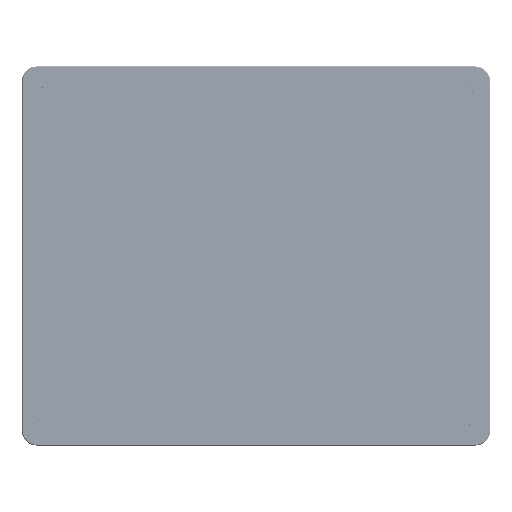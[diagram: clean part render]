
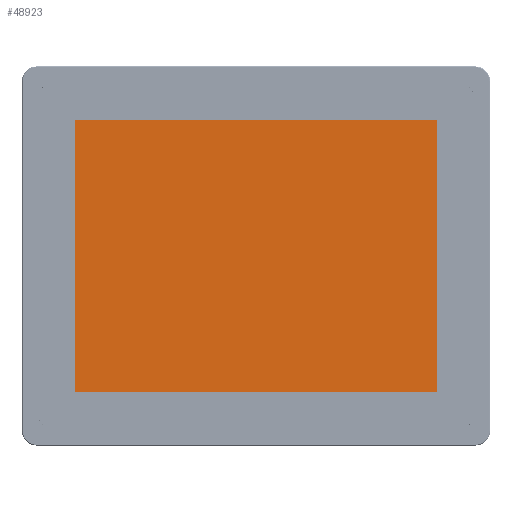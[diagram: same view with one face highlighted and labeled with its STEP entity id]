
A CAD part, top view. The second image highlights one B-rep face of the part: STEP entity #48923.
In plain terms, the highlighted planar face has unit normal (0, 0, 1).
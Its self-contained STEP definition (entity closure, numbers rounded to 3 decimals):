
#35587=FACE_OUTER_BOUND('',#72832,.T.);
#48923=ADVANCED_FACE('',(#35587),#61812,.T.);
#61812=PLANE('',#228926);
#72832=EDGE_LOOP('',(#94639,#94640,#94641,#94642));
#94639=ORIENTED_EDGE('',*,*,#185395,.T.);
#94640=ORIENTED_EDGE('',*,*,#185396,.T.);
#94641=ORIENTED_EDGE('',*,*,#185397,.T.);
#94642=ORIENTED_EDGE('',*,*,#185398,.T.);
#161571=VERTEX_POINT('',#294548);
#161572=VERTEX_POINT('',#294549);
#161573=VERTEX_POINT('',#294551);
#161574=VERTEX_POINT('',#294553);
#185395=EDGE_CURVE('',#161571,#161572,#219174,.T.);
#185396=EDGE_CURVE('',#161572,#161573,#219175,.T.);
#185397=EDGE_CURVE('',#161573,#161574,#219176,.T.);
#185398=EDGE_CURVE('',#161574,#161571,#219177,.T.);
#219174=LINE('',#294547,#223784);
#219175=LINE('',#294550,#223785);
#219176=LINE('',#294552,#223786);
#219177=LINE('',#294554,#223787);
#223784=VECTOR('',#247311,1.);
#223785=VECTOR('',#247312,1.);
#223786=VECTOR('',#247313,1.);
#223787=VECTOR('',#247314,1.);
#228926=AXIS2_PLACEMENT_3D('',#294555,#247315,#247316);
#247311=DIRECTION('',(0.,-1.,0.));
#247312=DIRECTION('',(1.,0.,0.));
#247313=DIRECTION('',(0.,1.,0.));
#247314=DIRECTION('',(-1.,0.,0.));
#247315=DIRECTION('',(0.,0.,1.));
#247316=DIRECTION('',(1.,0.,0.));
#294547=CARTESIAN_POINT('',(-163.526,92.819,14.75));
#294548=CARTESIAN_POINT('',(-163.526,92.819,14.75));
#294549=CARTESIAN_POINT('',(-163.526,-93.681,14.75));
#294550=CARTESIAN_POINT('',(-163.526,-93.681,14.75));
#294551=CARTESIAN_POINT('',(84.474,-93.681,14.75));
#294552=CARTESIAN_POINT('',(84.474,92.819,14.75));
#294553=CARTESIAN_POINT('',(84.474,92.819,14.75));
#294554=CARTESIAN_POINT('',(-163.526,92.819,14.75));
#294555=CARTESIAN_POINT('',(5432.622,-411.142,14.75));
